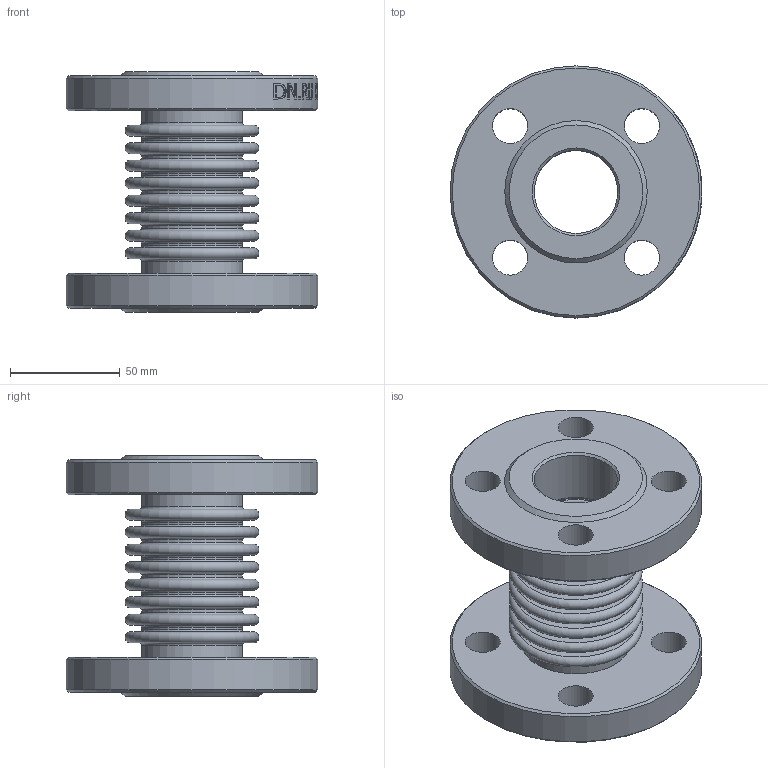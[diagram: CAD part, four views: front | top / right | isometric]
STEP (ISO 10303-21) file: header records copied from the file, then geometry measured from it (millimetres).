
FILE_DESCRIPTION(/* description */ ('D140-02110','CAx-IF Rec.Pracs.---Representation and Presentation of Product Manufacturing Information (PMI)---4.0---2014-10-13'),/* implementation_level */ '2;1');
FILE_NAME(/* name */ '',/* time_stamp */ '2026-04-13T23:00:07+03:00',/* author */ ('DN.RU'),/* organization */ ('DN.RU'),/* preprocessor_version */ 'ST-DEVELOPER v20',/* originating_system */ 'Autodesk Inventor 2025',/* authorisation */ '');
FILE_SCHEMA (('AP242_MANAGED_MODEL_BASED_3D_ENGINEERING_MIM_LF { 1 0 10303 442 1 1 4 }'));
Length unit declared in the file: millimetre
Products named in the file (1): CB-3234-F
Bounding box: 115 x 115 x 110 mm (x, y, z)
Volume: 306363.6 mm3; surface area: 117292.5 mm2
Topology: 1 solids, 1 shells, 323 faces, 793 edges, 528 vertices
Faces by surface type: plane 136, bspline 83, cylinder 48, torus 48, cone 8
Full cylindrical faces by diameter (mm): 16 x8, 38 x2, 44 x7, 46 x9, 50 x2, 115 x2
Entity records: 12639 total; most frequent: CARTESIAN_POINT 4449, ORIENTED_EDGE 1586, DIRECTION 1511, EDGE_CURVE 793, AXIS2_PLACEMENT_3D 606, VERTEX_POINT 528, STYLED_ITEM 414, EDGE_LOOP 397
